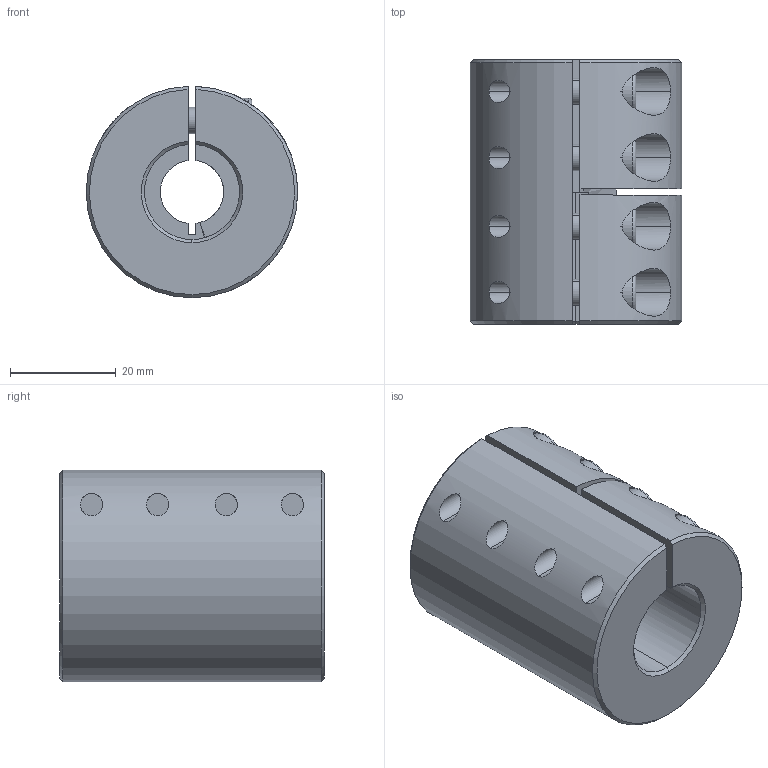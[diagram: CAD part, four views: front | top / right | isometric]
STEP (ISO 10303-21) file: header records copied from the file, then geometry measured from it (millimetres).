
FILE_DESCRIPTION (( 'STEP AP214' ), '1' );
FILE_NAME ('LL-B-D40L50-12-18½¨Ä£.STEP', '2022-07-22T00:22:33', ( '' ), ( '' ), 'SwSTEP 2.0', 'SolidWorks 2022', '' );
FILE_SCHEMA (( 'AUTOMOTIVE_DESIGN' ));
Length unit declared in the file: millimetre
Products named in the file (1): LL-B-D40L50-12-18膘耀
Bounding box: 40 x 50 x 39.99 mm (x, y, z)
Volume: 50585.9 mm3; surface area: 15422.9 mm2
Topology: 1 solids, 1 shells, 181 faces, 459 edges, 288 vertices
Faces by surface type: plane 87, cylinder 71, cone 15, torus 8
Entity records: 5971 total; most frequent: CARTESIAN_POINT 1511, DIRECTION 967, ORIENTED_EDGE 902, EDGE_CURVE 451, AXIS2_PLACEMENT_3D 376, VERTEX_POINT 288, VECTOR 215, LINE 215
